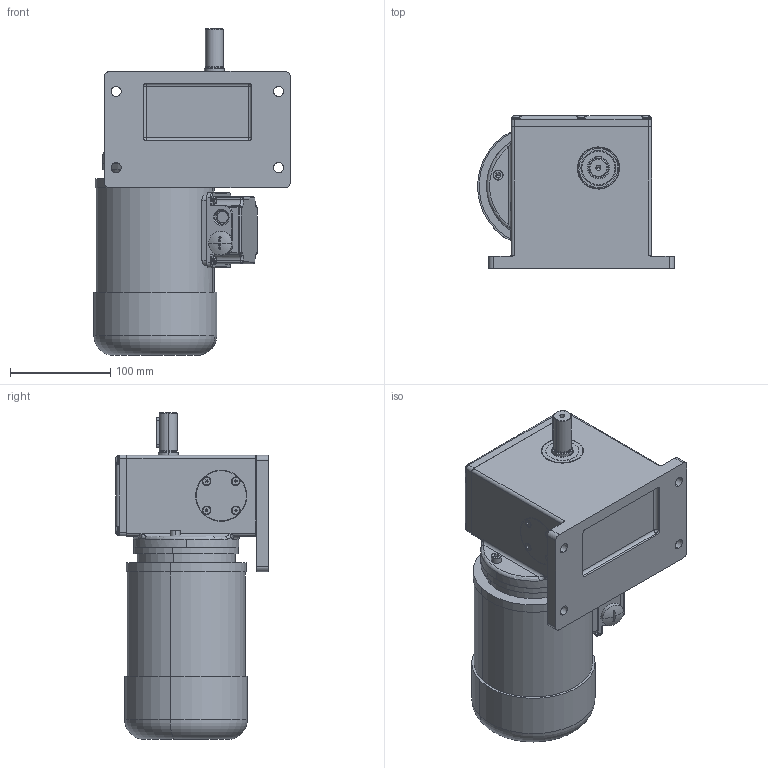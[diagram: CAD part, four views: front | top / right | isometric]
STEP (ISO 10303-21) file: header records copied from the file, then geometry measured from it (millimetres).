
FILE_DESCRIPTION (( 'STEP AP214' ), '1' );
FILE_NAME ('SN7_120W_Drehstrom-Motor.STEP', '2022-08-25T10:23:01', ( '' ), ( '' ), 'SwSTEP 2.0', 'SolidWorks 2021', '' );
FILE_SCHEMA (( 'AUTOMOTIVE_DESIGN' ));
Length unit declared in the file: millimetre
Products named in the file (16): 01-D-001_3D_Export; 07-M-037 I 120W_1400Upm; slotted pan head screw_iso_ISO 1580 - M5 x 16 - 16C; socket set screw flat point_iso_ISO 4026 - M6 x 45-C; 07-G-006_3D_Export; PF_A6x6x30; socket head cap screw_iso_ISO 4762 M6 x 20 - 20C; SN7_3D_Export; 07-W-005_3D_Export; SN7_120W_Drehstrom-Motor; U-Seal Ring Ø5; socket countersunk head screw_iso_ISO 10642 - M4 x 10 - 10C; 07-D-012_3D_Export; socket head cap screw_iso_ISO 4762 M6 x 30 - 30C; slotted cheese head screw_iso_ISO 1207 - M5 x 6 - 6C; NBR_WDR_20x42x7
Assembly tree (30 placements, depth 3):
  SN7_120W_Drehstrom-Motor
    SN7_3D_Export
      07-G-006_3D_Export
      07-W-005_3D_Export
      07-D-012_3D_Export
      01-D-001_3D_Export  x2
      PF_A6x6x30
      NBR_WDR_20x42x7
      U-Seal Ring Ø5  x2
      socket countersunk head screw_iso_ISO 10642 - M4 x 10 - 10C  x8
      slotted cheese head screw_iso_ISO 1207 - M5 x 6 - 6C  x2
      socket head cap screw_iso_ISO 4762 M6 x 20 - 20C
      socket set screw flat point_iso_ISO 4026 - M6 x 45-C
      slotted pan head screw_iso_ISO 1580 - M5 x 16 - 16C  x6
      socket head cap screw_iso_ISO 4762 M6 x 30 - 30C
    07-M-037 I 120W_1400Upm
Bounding box: 195.77 x 152.3 x 326 mm (x, y, z)
Volume: 4168676.3 mm3; surface area: 299413.8 mm2
Topology: 30 solids, 30 shells, 1021 faces, 2418 edges, 1474 vertices
Faces by surface type: plane 350, cylinder 320, cone 188, torus 119, sphere 32, bspline 12
Entity records: 24483 total; most frequent: CARTESIAN_POINT 5999, DIRECTION 4003, ORIENTED_EDGE 3516, EDGE_CURVE 1758, AXIS2_PLACEMENT_3D 1675, VERTEX_POINT 1111, CIRCLE 918, EDGE_LOOP 833
